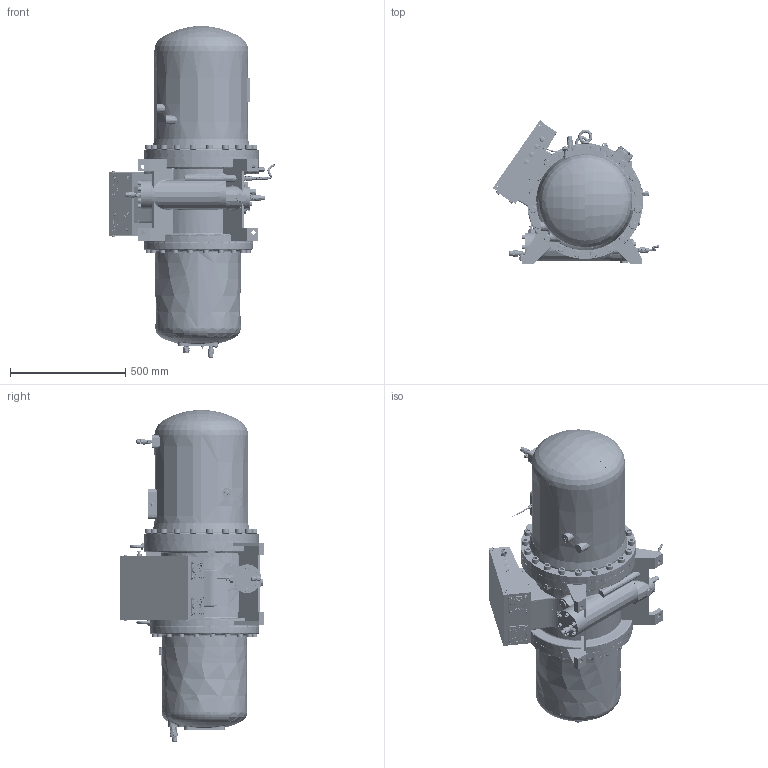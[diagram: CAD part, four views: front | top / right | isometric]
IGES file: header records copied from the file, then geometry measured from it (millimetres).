
Global section: file name: RC2-370B outline; native system: Autodesk Inventor 2017; preprocessor: unknown; author: hedylu; date: 20170626.155117; units: centimetre
Bounding box: 721.48 x 622.75 x 1438.46 mm (x, y, z)
Surface area: 4477458.9 mm2 (no closed solid volume)
Topology: 0 solids, 0 shells, 2805 faces, 35043 edges, 35034 vertices
Faces by surface type: bspline 1463, revolution 1342
